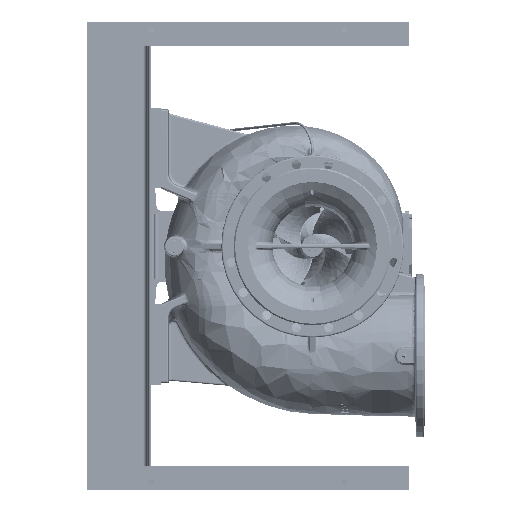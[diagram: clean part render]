
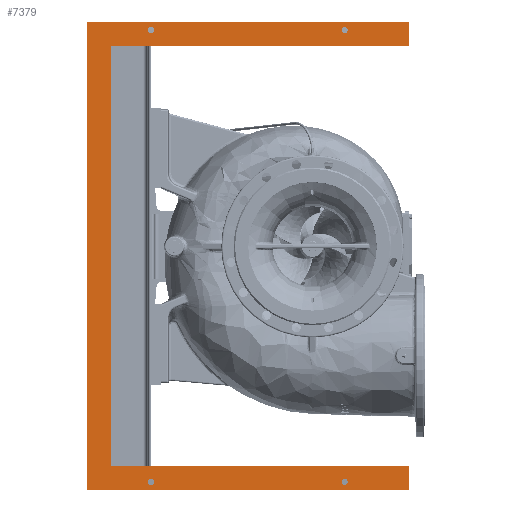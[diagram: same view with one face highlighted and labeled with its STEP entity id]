
A CAD part, front view. The second image highlights one B-rep face of the part: STEP entity #7379.
In plain terms, the highlighted planar face has unit normal (0, -1, 0).
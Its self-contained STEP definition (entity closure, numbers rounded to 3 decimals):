
#826=DIRECTION('',(0.,0.,1.));
#827=VECTOR('',#826,925.);
#828=CARTESIAN_POINT('',(-650.,0.,75.));
#829=LINE('',#828,#827);
#1909=DIRECTION('',(1.,0.,0.));
#1910=VECTOR('',#1909,75.);
#1911=CARTESIAN_POINT('',(650.,0.,1000.));
#1912=LINE('',#1911,#1910);
#1969=DIRECTION('',(1.,0.,0.));
#1970=VECTOR('',#1969,75.);
#1971=CARTESIAN_POINT('',(-725.,0.,1000.));
#1972=LINE('',#1971,#1970);
#2210=DIRECTION('',(1.,0.,0.));
#2211=VECTOR('',#2210,1300.);
#2212=CARTESIAN_POINT('',(-650.,0.,75.));
#2213=LINE('',#2212,#2211);
#2214=DIRECTION('',(0.,0.,1.));
#2215=VECTOR('',#2214,925.);
#2216=CARTESIAN_POINT('',(650.,0.,75.));
#2217=LINE('',#2216,#2215);
#2218=DIRECTION('',(-1.,0.,0.));
#2219=VECTOR('',#2218,1450.);
#2220=CARTESIAN_POINT('',(725.,0.,0.));
#2221=LINE('',#2220,#2219);
#2222=DIRECTION('',(0.,0.,1.));
#2223=VECTOR('',#2222,1000.);
#2224=CARTESIAN_POINT('',(-725.,0.,0.));
#2225=LINE('',#2224,#2223);
#2226=CARTESIAN_POINT('',(-700.,0.,200.));
#2227=DIRECTION('',(0.,1.,0.));
#2228=DIRECTION('',(-1.,0.,0.));
#2229=AXIS2_PLACEMENT_3D('',#2226,#2227,#2228);
#2231=CARTESIAN_POINT('',(-700.,0.,200.));
#2232=DIRECTION('',(0.,1.,0.));
#2233=DIRECTION('',(1.,0.,0.));
#2234=AXIS2_PLACEMENT_3D('',#2231,#2232,#2233);
#2236=CARTESIAN_POINT('',(700.,0.,200.));
#2237=DIRECTION('',(0.,1.,0.));
#2238=DIRECTION('',(-1.,0.,0.));
#2239=AXIS2_PLACEMENT_3D('',#2236,#2237,#2238);
#2241=CARTESIAN_POINT('',(700.,0.,200.));
#2242=DIRECTION('',(0.,1.,0.));
#2243=DIRECTION('',(1.,0.,0.));
#2244=AXIS2_PLACEMENT_3D('',#2241,#2242,#2243);
#2246=CARTESIAN_POINT('',(-700.,0.,800.));
#2247=DIRECTION('',(0.,1.,0.));
#2248=DIRECTION('',(-1.,0.,0.));
#2249=AXIS2_PLACEMENT_3D('',#2246,#2247,#2248);
#2251=CARTESIAN_POINT('',(-700.,0.,800.));
#2252=DIRECTION('',(0.,1.,0.));
#2253=DIRECTION('',(1.,0.,0.));
#2254=AXIS2_PLACEMENT_3D('',#2251,#2252,#2253);
#2256=CARTESIAN_POINT('',(700.,0.,800.));
#2257=DIRECTION('',(0.,1.,0.));
#2258=DIRECTION('',(-1.,0.,0.));
#2259=AXIS2_PLACEMENT_3D('',#2256,#2257,#2258);
#2261=CARTESIAN_POINT('',(700.,0.,800.));
#2262=DIRECTION('',(0.,1.,0.));
#2263=DIRECTION('',(1.,0.,0.));
#2264=AXIS2_PLACEMENT_3D('',#2261,#2262,#2263);
#2274=DIRECTION('',(0.,0.,1.));
#2275=VECTOR('',#2274,1000.);
#2276=CARTESIAN_POINT('',(725.,0.,0.));
#2277=LINE('',#2276,#2275);
#4046=CARTESIAN_POINT('',(-725.,0.,0.));
#4047=VERTEX_POINT('',#4046);
#4048=CARTESIAN_POINT('',(725.,0.,0.));
#4050=VERTEX_POINT('',#4048);
#4071=CARTESIAN_POINT('',(-725.,0.,1000.));
#4073=VERTEX_POINT('',#4071);
#4074=CARTESIAN_POINT('',(-650.,0.,1000.));
#4075=VERTEX_POINT('',#4074);
#4082=CARTESIAN_POINT('',(650.,0.,1000.));
#4083=VERTEX_POINT('',#4082);
#4084=CARTESIAN_POINT('',(725.,0.,1000.));
#4085=VERTEX_POINT('',#4084);
#4198=CARTESIAN_POINT('',(-650.,0.,75.));
#4199=VERTEX_POINT('',#4198);
#4220=CARTESIAN_POINT('',(650.,0.,75.));
#4221=VERTEX_POINT('',#4220);
#4948=CARTESIAN_POINT('',(-709.5,0.,200.));
#4949=CARTESIAN_POINT('',(-690.5,0.,200.));
#4950=VERTEX_POINT('',#4948);
#4951=VERTEX_POINT('',#4949);
#4956=CARTESIAN_POINT('',(690.5,0.,200.));
#4957=CARTESIAN_POINT('',(709.5,0.,200.));
#4958=VERTEX_POINT('',#4956);
#4959=VERTEX_POINT('',#4957);
#4964=CARTESIAN_POINT('',(-709.5,0.,800.));
#4965=CARTESIAN_POINT('',(-690.5,0.,800.));
#4966=VERTEX_POINT('',#4964);
#4967=VERTEX_POINT('',#4965);
#4972=CARTESIAN_POINT('',(690.5,0.,800.));
#4973=CARTESIAN_POINT('',(709.5,0.,800.));
#4974=VERTEX_POINT('',#4972);
#4975=VERTEX_POINT('',#4973);
#7338=CARTESIAN_POINT('',(-725.,0.,0.));
#7339=DIRECTION('',(0.,-1.,0.));
#7340=DIRECTION('',(1.,0.,0.));
#7341=AXIS2_PLACEMENT_3D('',#7338,#7339,#7340);
#7342=PLANE('',#7341);
#7344=ORIENTED_EDGE('',*,*,#7343,.T.);
#7345=ORIENTED_EDGE('',*,*,#5594,.T.);
#7346=ORIENTED_EDGE('',*,*,#7043,.T.);
#7348=ORIENTED_EDGE('',*,*,#7347,.F.);
#7349=ORIENTED_EDGE('',*,*,#5103,.T.);
#7350=ORIENTED_EDGE('',*,*,#7333,.T.);
#7351=ORIENTED_EDGE('',*,*,#7079,.T.);
#7352=ORIENTED_EDGE('',*,*,#5783,.F.);
#7353=EDGE_LOOP('',(#7344,#7345,#7346,#7348,#7349,#7350,#7351,#7352));
#7354=FACE_OUTER_BOUND('',#7353,.F.);
#7356=ORIENTED_EDGE('',*,*,#7355,.F.);
#7358=ORIENTED_EDGE('',*,*,#7357,.F.);
#7359=EDGE_LOOP('',(#7356,#7358));
#7360=FACE_BOUND('',#7359,.F.);
#7362=ORIENTED_EDGE('',*,*,#7361,.F.);
#7364=ORIENTED_EDGE('',*,*,#7363,.F.);
#7365=EDGE_LOOP('',(#7362,#7364));
#7366=FACE_BOUND('',#7365,.F.);
#7368=ORIENTED_EDGE('',*,*,#7367,.F.);
#7370=ORIENTED_EDGE('',*,*,#7369,.F.);
#7371=EDGE_LOOP('',(#7368,#7370));
#7372=FACE_BOUND('',#7371,.F.);
#7374=ORIENTED_EDGE('',*,*,#7373,.F.);
#7376=ORIENTED_EDGE('',*,*,#7375,.F.);
#7377=EDGE_LOOP('',(#7374,#7376));
#7378=FACE_BOUND('',#7377,.F.);
#7379=ADVANCED_FACE('',(#7354,#7360,#7366,#7372,#7378),#7342,.T.);
#2230=CIRCLE('',#2229,9.5);
#2235=CIRCLE('',#2234,9.5);
#2240=CIRCLE('',#2239,9.5);
#2245=CIRCLE('',#2244,9.5);
#2250=CIRCLE('',#2249,9.5);
#2255=CIRCLE('',#2254,9.5);
#2260=CIRCLE('',#2259,9.5);
#2265=CIRCLE('',#2264,9.5);
#5103=EDGE_CURVE('',#4050,#4047,#2221,.T.);
#5594=EDGE_CURVE('',#4221,#4083,#2217,.T.);
#5783=EDGE_CURVE('',#4199,#4075,#829,.T.);
#7043=EDGE_CURVE('',#4083,#4085,#1912,.T.);
#7079=EDGE_CURVE('',#4073,#4075,#1972,.T.);
#7333=EDGE_CURVE('',#4047,#4073,#2225,.T.);
#7343=EDGE_CURVE('',#4199,#4221,#2213,.T.);
#7347=EDGE_CURVE('',#4050,#4085,#2277,.T.);
#7355=EDGE_CURVE('',#4950,#4951,#2230,.T.);
#7357=EDGE_CURVE('',#4951,#4950,#2235,.T.);
#7361=EDGE_CURVE('',#4958,#4959,#2240,.T.);
#7363=EDGE_CURVE('',#4959,#4958,#2245,.T.);
#7367=EDGE_CURVE('',#4966,#4967,#2250,.T.);
#7369=EDGE_CURVE('',#4967,#4966,#2255,.T.);
#7373=EDGE_CURVE('',#4974,#4975,#2260,.T.);
#7375=EDGE_CURVE('',#4975,#4974,#2265,.T.);
